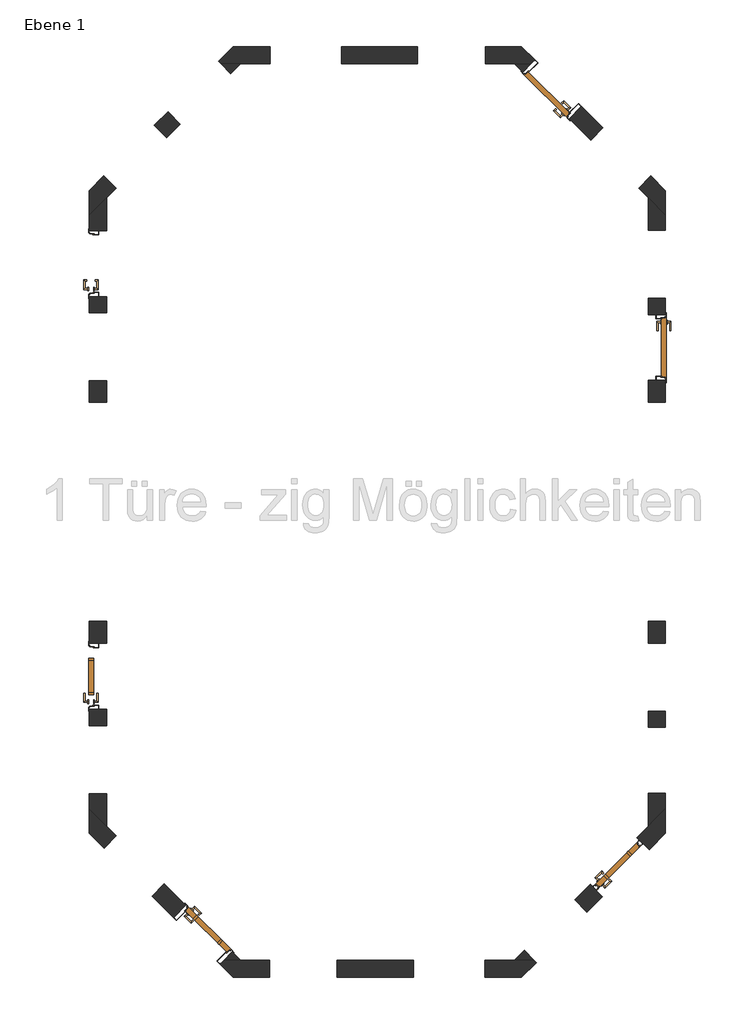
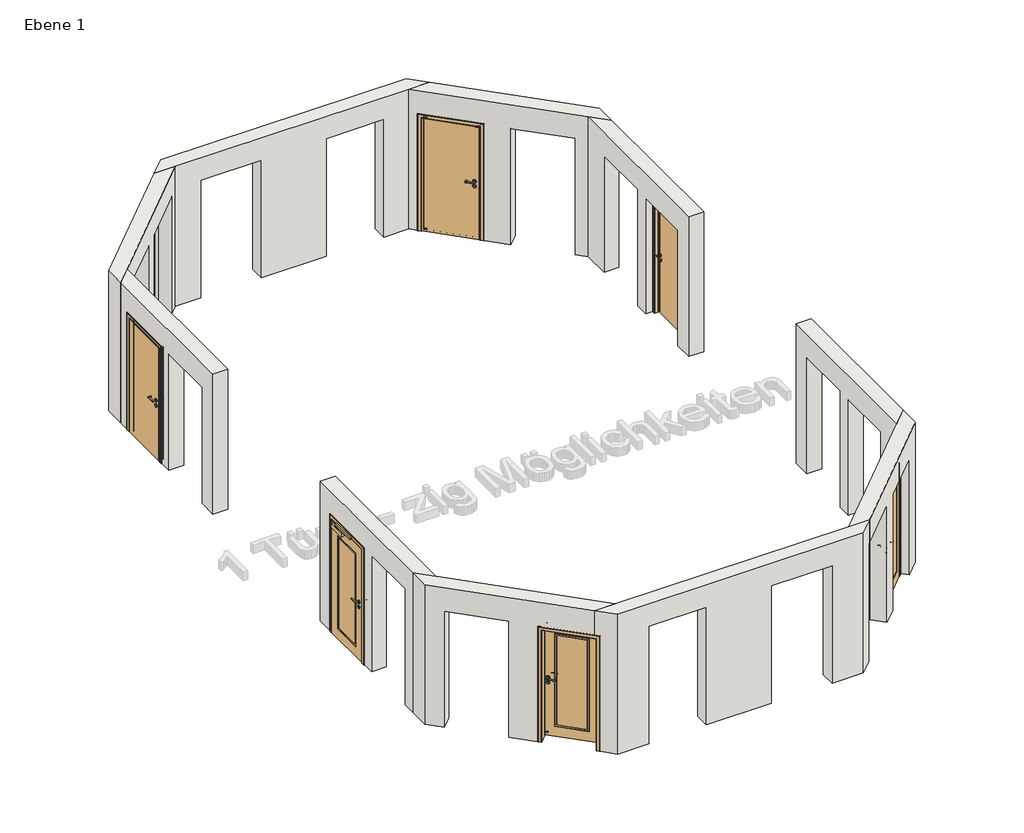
# One storey, part 1 of 2: 10 walls, 6 doors.
"""IFC4 building model written with IfcOpenShell, lengths in millimetres."""

from ifc_helpers import new_model, si_unit, origin, place, context, project, spatial, faceted_brep, transform, mapped, element, save
from components import door_c648f8eb, door_8842c076, door_bbc19964, door_5233f0bc, door_1babe00d, door_01702f04, door_741bb2bb, door_bfabdab3, door_c84f8a6b, door_6e8d6682, door_f72b39be, door_818478f5, door_acefcb3a, door_935f460a

model = new_model("IFC4")

# Units and contexts
model_context = context("Model", 3, world=origin())
ifc_project = project(units=[si_unit("LENGTHUNIT", "METRE", prefix="MILLI")], contexts=[model_context])

# Site, building, storey
site = spatial("IfcSite", under=ifc_project)
building = spatial("IfcBuilding", under=site)
storey = spatial("IfcBuildingStorey", under=building, Name="Ebene 1", Elevation=0.0)

# Doors
placement = place(None, origin())
door_shape = door_c648f8eb(model_context)
door_2_shape = door_8842c076(model_context)
door_3_shape = door_bbc19964(model_context)
element("IfcDoor", 1, ObjectType="Peneder_HIGHLINEflat_1-flügelig_V2019 : Zargentyp - 01 - Eck 60 DN", at=placement, inside=storey, context=model_context, shape_type="MappedRepresentation", body=[
    mapped(door_shape, transform((3666.3035436, 457.8727756, 0.0), x_axis=(0.0, -1.0, 0.0), y_axis=(1.0, 0.0, 0.0), z_axis=(0.0, 0.0, 1.0))),
    mapped(door_2_shape, transform((3666.3035436, 457.8727756, 0.0), x_axis=(0.0, -1.0, 0.0), y_axis=(1.0, 0.0, 0.0), z_axis=(0.0, 0.0, 1.0))),
    mapped(door_3_shape, transform((3666.3035436, 457.8727756, 0.0), x_axis=(0.0, -1.0, 0.0), y_axis=(1.0, 0.0, 0.0), z_axis=(0.0, 0.0, 1.0))),
])
door_4_shape = door_5233f0bc(model_context)
door_5_shape = door_1babe00d(model_context)
door_6_shape = door_01702f04(model_context)
element("IfcDoor", 2, ObjectType="Peneder_HIGHLINEflat_1-flügelig_V2019 : Zargentyp - 05 - U DN", at=placement, inside=storey, context=model_context, shape_type="MappedRepresentation", body=[
    mapped(door_4_shape, transform((2156.5558676, 4176.962445, 0.0), x_axis=(-0.7071067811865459, 0.7071067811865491, 0.0), y_axis=(-0.7071067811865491, -0.7071067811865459, 0.0), z_axis=(0.0, 0.0, 1.0))),
    mapped(door_5_shape, transform((2156.5558676, 4176.962445, 0.0), x_axis=(-0.7071067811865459, 0.7071067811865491, 0.0), y_axis=(-0.7071067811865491, -0.7071067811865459, 0.0), z_axis=(0.0, 0.0, 1.0))),
    mapped(door_6_shape, transform((2156.5558676, 4176.962445, 0.0), x_axis=(-0.7071067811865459, 0.7071067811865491, 0.0), y_axis=(-0.7071067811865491, -0.7071067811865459, 0.0), z_axis=(0.0, 0.0, 1.0))),
])
door_7_shape = door_741bb2bb(model_context)
door_8_shape = door_bfabdab3(model_context)
door_9_shape = door_c84f8a6b(model_context)
element("IfcDoor", 3, ObjectType="Peneder_HIGHLINEflat_1-flügelig_V2019 : Zargentyp - 01 - Eck 60 DN", at=placement, inside=storey, context=model_context, shape_type="MappedRepresentation", body=[
    mapped(door_7_shape, transform((-4385.4731517, 1667.2147691, 0.0), x_axis=(0.0, 1.0, 0.0), y_axis=(-1.0, 0.0, 0.0), z_axis=(0.0, 0.0, 1.0))),
    mapped(door_8_shape, transform((-4385.4731517, 1667.2147691, 0.0), x_axis=(0.0, 1.0, 0.0), y_axis=(-1.0, 0.0, 0.0), z_axis=(0.0, 0.0, 1.0))),
    mapped(door_9_shape, transform((-4385.4731517, 1667.2147691, 0.0), x_axis=(0.0, 1.0, 0.0), y_axis=(-1.0, 0.0, 0.0), z_axis=(0.0, 0.0, 1.0))),
])
door_10_shape = door_6e8d6682(model_context)
element("IfcDoor", 4, ObjectType="Peneder_HIGHLINEflat zero_1-flügelig_V2019 : Zargentyp - 01 - Eck 60 DN", at=placement, inside=storey, context=model_context, shape_type="MappedRepresentation", body=[
    mapped(door_shape, transform((-4385.4731517, -4276.7270525, 0.0), x_axis=(0.0, 1.0, 0.0), y_axis=(-1.0, 0.0, 0.0), z_axis=(0.0, 0.0, 1.0))),
    mapped(door_2_shape, transform((-4385.4731517, -4276.7270525, 0.0), x_axis=(0.0, 1.0, 0.0), y_axis=(-1.0, 0.0, 0.0), z_axis=(0.0, 0.0, 1.0))),
    mapped(door_10_shape, transform((-4385.4731517, -4276.7270525, 0.0), x_axis=(0.0, 1.0, 0.0), y_axis=(-1.0, 0.0, 0.0), z_axis=(0.0, 0.0, 1.0))),
])
door_11_shape = door_f72b39be(model_context)
element("IfcDoor", 5, ObjectType="Peneder_HIGHLINEflat zero_1-flügelig_V2019 : Zargentyp - 05 - U DN", at=placement, inside=storey, context=model_context, shape_type="MappedRepresentation", body=[
    mapped(door_4_shape, transform((-2875.7254757, -7995.8167219, 0.0), x_axis=(0.7071067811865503, -0.7071067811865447, 0.0), y_axis=(0.7071067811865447, 0.7071067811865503, 0.0), z_axis=(0.0, 0.0, 1.0))),
    mapped(door_5_shape, transform((-2875.7254757, -7995.8167219, 0.0), x_axis=(0.7071067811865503, -0.7071067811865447, 0.0), y_axis=(0.7071067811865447, 0.7071067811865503, 0.0), z_axis=(0.0, 0.0, 1.0))),
    mapped(door_11_shape, transform((-2875.7254757, -7995.8167219, 0.0), x_axis=(0.7071067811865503, -0.7071067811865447, 0.0), y_axis=(0.7071067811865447, 0.7071067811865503, 0.0), z_axis=(0.0, 0.0, 1.0))),
])
door_12_shape = door_818478f5(model_context)
door_13_shape = door_acefcb3a(model_context)
door_14_shape = door_935f460a(model_context)
element("IfcDoor", 6, ObjectType="Peneder_HIGHLINEflat zero_1-flügelig_V2019 : Zargentyp - 07 - Stumpf FP V", at=placement, inside=storey, context=model_context, shape_type="MappedRepresentation", body=[
    mapped(door_12_shape, transform((3129.5716567, -7022.8009328, 0.0), x_axis=(0.7071067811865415, 0.7071067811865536, 0.0), y_axis=(-0.7071067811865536, 0.7071067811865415, 0.0), z_axis=(0.0, 0.0, 1.0))),
    mapped(door_13_shape, transform((3129.5716567, -7022.8009328, 0.0), x_axis=(0.7071067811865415, 0.7071067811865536, 0.0), y_axis=(-0.7071067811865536, 0.7071067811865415, 0.0), z_axis=(0.0, 0.0, 1.0))),
    mapped(door_14_shape, transform((3129.5716567, -7022.8009328, 0.0), x_axis=(0.7071067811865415, 0.7071067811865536, 0.0), y_axis=(-0.7071067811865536, 0.7071067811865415, 0.0), z_axis=(0.0, 0.0, 1.0))),
])

# Walls
element("IfcWall", 7, ObjectType="Wand 1", at=placement, inside=storey, context=model_context, shape_type="Brep", body=[
    faceted_brep([(1968.0802389, 4542.2147691, 2500.0), (1614.5268483, 4542.2147691, 2500.0), (-2333.6964564, 4542.2147691, 2500.0), (-2687.249847, 4542.2147691, 2500.0), (-2687.249847, 4542.2147691, 2101.0), (-2614.8377507, 4542.2147691, 2101.0), (-2614.8377507, 4542.2147691, 0.0), (-2333.6964564, 4542.2147691, 0.0), (-1905.0730184, 4542.2147691, 0.0), (-1905.0730184, 4542.2147691, 2101.0), (-877.0730184, 4542.2147691, 2101.0), (-877.0730184, 4542.2147691, 0.0), (219.9269816, 4542.2147691, 0.0), (219.9269816, 4542.2147691, 2105.0), (1197.9269816, 4542.2147691, 2105.0), (1197.9269816, 4542.2147691, 0.0), (1614.5268483, 4542.2147691, 0.0), (1851.4709631, 4542.2147691, 0.0), (1851.4709631, 4542.2147691, 2061.0), (1968.0802389, 4542.2147691, 2061.0), (-2437.249847, 4792.2147691, 2500.0), (1718.0802389, 4792.2147691, 2500.0), (1718.0802389, 4792.2147691, 0.0), (1197.9269816, 4792.2147691, 0.0), (1197.9269816, 4792.2147691, 2105.0), (219.9269816, 4792.2147691, 2105.0), (219.9269816, 4792.2147691, 0.0), (-877.0730184, 4792.2147691, 0.0), (-877.0730184, 4792.2147691, 2101.0), (-1905.0730184, 4792.2147691, 2101.0), (-1905.0730184, 4792.2147691, 0.0), (-2437.249847, 4792.2147691, 0.0), (1909.775601, 4600.519407, 0.0), (-2651.0437989, 4578.4208172, 0.0), (1909.775601, 4600.519407, 2061.0), (-2651.0437989, 4578.4208172, 2101.0)], [[[0, 1, 2, 3, 4, 5, 6, 7, 8, 9, 10, 11, 12, 13, 14, 15, 16, 17, 18, 19]], [[20, 21, 22, 23, 24, 25, 26, 27, 28, 29, 30, 31]], [[22, 32, 17, 16, 15, 23]], [[31, 30, 8, 7, 6, 33]], [[11, 27, 26, 12]], [[3, 2, 1, 0, 21, 20]], [[22, 21, 0, 19, 34, 32]], [[3, 20, 31, 33, 35, 4]], [[34, 18, 17, 32]], [[18, 34, 19]], [[29, 9, 8, 30]], [[9, 29, 28, 10]], [[10, 28, 27, 11]], [[14, 24, 23, 15]], [[24, 14, 13, 25]], [[25, 13, 12, 26]], [[35, 5, 4]], [[5, 35, 33, 6]]]),
])
element("IfcWall", 8, ObjectType="Wand 1", at=placement, inside=storey, context=model_context, shape_type="Brep", body=[
    faceted_brep([(3791.3035436, 2365.4380738, 2500.0), (3541.3035436, 2615.4380738, 2500.0), (1614.5268483, 4542.2147691, 2500.0), (1614.5268483, 4542.2147691, 0.0), (1732.9989057, 4423.7427117, 0.0), (1732.9989057, 4423.7427117, 2061.0), (2403.3361343, 3753.4054831, 2061.0), (2403.3361343, 3753.4054831, 0.0), (2712.3417976, 3444.3998197, 0.0), (2712.3417976, 3444.3998197, 2076.0), (3403.8922296, 2752.8493877, 2076.0), (3403.8922296, 2752.8493877, 0.0), (3541.3035436, 2615.4380738, 0.0), (3791.3035436, 2365.4380738, 0.0), (1968.0802389, 4542.2147691, 2500.0), (3791.3035436, 2718.9914644, 2500.0), (3791.3035436, 2718.9914644, 0.0), (3580.6689249, 2929.626083, 0.0), (3580.6689249, 2929.626083, 2076.0), (2889.1184929, 3621.176515, 2076.0), (2889.1184929, 3621.176515, 0.0), (2580.1128296, 3930.1821784, 0.0), (2580.1128296, 3930.1821784, 2061.0), (1968.0802389, 4542.2147691, 2061.0), (1851.4709631, 4542.2147691, 0.0), (1851.4709631, 4542.2147691, 2061.0)], [[[0, 1, 2, 3, 4, 5, 6, 7, 8, 9, 10, 11, 12, 13]], [[14, 15, 16, 17, 18, 19, 20, 21, 22, 23]], [[16, 13, 12, 11, 17]], [[20, 8, 7, 21]], [[4, 3, 24]], [[2, 1, 0, 15, 14]], [[3, 2, 14, 23, 25, 24]], [[0, 13, 16, 15]], [[10, 18, 17, 11]], [[18, 10, 9, 19]], [[19, 9, 8, 20]], [[25, 5, 4, 24]], [[5, 25, 23, 22, 6]], [[6, 22, 21, 7]]]),
])
element("IfcWall", 9, ObjectType="Wand 1", at=placement, inside=storey, context=model_context, shape_type="Brep", body=[
    faceted_brep([(3541.3035436, -332.7852309, 0.0), (3541.3035436, -332.7852309, 2500.0), (3541.3035436, 2615.4380738, 2500.0), (3541.3035436, 2615.4380738, 0.0), (3541.3035436, 2146.8727756, 0.0), (3541.3035436, 2146.8727756, 2076.0), (3541.3035436, 1168.8727756, 2076.0), (3541.3035436, 1168.8727756, 0.0), (3541.3035436, 931.8727756, 0.0), (3541.3035436, 931.8727756, 2061.0), (3541.3035436, -16.1272244, 2061.0), (3541.3035436, -16.1272244, 0.0), (3791.3035436, -332.7852309, 2500.0), (3791.3035436, -332.7852309, 0.0), (3791.3035436, -16.1272244, 0.0), (3791.3035436, -16.1272244, 2061.0), (3791.3035436, 931.8727756, 2061.0), (3791.3035436, 931.8727756, 0.0), (3791.3035436, 1168.8727756, 0.0), (3791.3035436, 1168.8727756, 2076.0), (3791.3035436, 2146.8727756, 2076.0), (3791.3035436, 2146.8727756, 0.0), (3791.3035436, 2365.4380738, 0.0), (3791.3035436, 2365.4380738, 2500.0)], [[[0, 1, 2, 3, 4, 5, 6, 7, 8, 9, 10, 11]], [[12, 13, 14, 15, 16, 17, 18, 19, 20, 21, 22, 23]], [[13, 0, 11, 14]], [[3, 22, 21, 4]], [[17, 8, 7, 18]], [[1, 0, 13, 12]], [[2, 1, 12, 23]], [[3, 2, 23, 22]], [[10, 15, 14, 11]], [[15, 10, 9, 16]], [[16, 9, 8, 17]], [[20, 5, 4, 21]], [[5, 20, 19, 6]], [[6, 19, 18, 7]]]),
])
element("IfcWall", 10, ObjectType="Wand 1", at=placement, inside=storey, context=model_context, shape_type="Brep", body=[
    faceted_brep([(-4510.4731517, 2718.9914644, 2500.0), (-2687.249847, 4542.2147691, 2500.0), (-2687.249847, 4542.2147691, 2101.0), (-3377.9495699, 3851.5150462, 2101.0), (-3377.9495699, 3851.5150462, 0.0), (-3573.6767269, 3655.7878891, 0.0), (-3573.6767269, 3655.7878891, 2101.0), (-4300.582498, 2928.8821181, 2101.0), (-4300.582498, 2928.8821181, 0.0), (-4510.4731517, 2718.9914644, 0.0), (-2333.6964564, 4542.2147691, 2500.0), (-4260.4731517, 2615.4380738, 2500.0), (-4510.4731517, 2365.4380738, 2500.0), (-4510.4731517, 2365.4380738, 0.0), (-4260.4731517, 2615.4380738, 0.0), (-4123.8058027, 2752.1054228, 0.0), (-4123.8058027, 2752.1054228, 2101.0), (-3396.9000316, 3479.0111938, 2101.0), (-3396.9000316, 3479.0111938, 0.0), (-3201.1728746, 3674.7383509, 0.0), (-3201.1728746, 3674.7383509, 2101.0), (-2474.2671036, 4401.6441219, 2101.0), (-2474.2671036, 4401.6441219, 0.0), (-2333.6964564, 4542.2147691, 0.0), (-2614.8377507, 4542.2147691, 0.0), (-2614.8377507, 4542.2147691, 2101.0)], [[[0, 1, 2, 3, 4, 5, 6, 7, 8, 9]], [[10, 11, 12, 13, 14, 15, 16, 17, 18, 19, 20, 21, 22, 23]], [[13, 9, 8, 15, 14]], [[23, 22, 24]], [[4, 19, 18, 5]], [[1, 0, 12, 11, 10]], [[0, 9, 13, 12]], [[1, 10, 23, 24, 25, 2]], [[3, 20, 19, 4]], [[20, 3, 2, 25, 21]], [[21, 25, 24, 22]], [[7, 16, 15, 8]], [[16, 7, 6, 17]], [[17, 6, 5, 18]]]),
])
element("IfcWall", 11, ObjectType="Wand 1", at=placement, inside=storey, context=model_context, shape_type="Brep", body=[
    faceted_brep([(-4510.4731517, -332.7852309, 0.0), (-4510.4731517, -332.7852309, 2500.0), (-4510.4731517, 2365.4380738, 2500.0), (-4510.4731517, 2365.4380738, 0.0), (-4510.4731517, 2141.2147691, 0.0), (-4510.4731517, 2141.2147691, 2061.0), (-4510.4731517, 1193.2147691, 2061.0), (-4510.4731517, 1193.2147691, 0.0), (-4510.4731517, 956.2147691, 0.0), (-4510.4731517, 956.2147691, 2076.0), (-4510.4731517, -21.7852309, 2076.0), (-4510.4731517, -21.7852309, 0.0), (-4260.4731517, -332.7852309, 2500.0), (-4260.4731517, -332.7852309, 0.0), (-4260.4731517, -21.7852309, 0.0), (-4260.4731517, -21.7852309, 2076.0), (-4260.4731517, 956.2147691, 2076.0), (-4260.4731517, 956.2147691, 0.0), (-4260.4731517, 1193.2147691, 0.0), (-4260.4731517, 1193.2147691, 2061.0), (-4260.4731517, 2141.2147691, 2061.0), (-4260.4731517, 2141.2147691, 0.0), (-4260.4731517, 2615.4380738, 0.0), (-4260.4731517, 2615.4380738, 2500.0)], [[[0, 1, 2, 3, 4, 5, 6, 7, 8, 9, 10, 11]], [[12, 13, 14, 15, 16, 17, 18, 19, 20, 21, 22, 23]], [[13, 0, 11, 14]], [[3, 22, 21, 4]], [[17, 8, 7, 18]], [[1, 0, 13, 12]], [[2, 1, 12, 23]], [[3, 2, 23, 22]], [[10, 15, 14, 11]], [[15, 10, 9, 16]], [[16, 9, 8, 17]], [[20, 5, 4, 21]], [[5, 20, 19, 6]], [[6, 19, 18, 7]]]),
])
element("IfcWall", 12, ObjectType="Wand 1", at=placement, inside=storey, context=model_context, shape_type="Brep", body=[
    faceted_brep([(-2687.249847, -8361.069046, 2500.0), (-2333.6964564, -8361.069046, 2500.0), (1614.5268483, -8361.069046, 2500.0), (1968.0802389, -8361.069046, 2500.0), (1968.0802389, -8361.069046, 2101.0), (1895.6681426, -8361.069046, 2101.0), (1895.6681426, -8361.069046, 0.0), (1614.5268483, -8361.069046, 0.0), (1185.9034103, -8361.069046, 0.0), (1185.9034103, -8361.069046, 2101.0), (157.9034103, -8361.069046, 2101.0), (157.9034103, -8361.069046, 0.0), (-939.0965897, -8361.069046, 0.0), (-939.0965897, -8361.069046, 2105.0), (-1917.0965897, -8361.069046, 2105.0), (-1917.0965897, -8361.069046, 0.0), (-2333.6964564, -8361.069046, 0.0), (-2570.6405712, -8361.069046, 0.0), (-2570.6405712, -8361.069046, 2061.0), (-2687.249847, -8361.069046, 2061.0), (1718.0802389, -8611.069046, 2500.0), (-2437.249847, -8611.069046, 2500.0), (-2437.249847, -8611.069046, 0.0), (-1917.0965897, -8611.069046, 0.0), (-1917.0965897, -8611.069046, 2105.0), (-939.0965897, -8611.069046, 2105.0), (-939.0965897, -8611.069046, 0.0), (157.9034103, -8611.069046, 0.0), (157.9034103, -8611.069046, 2101.0), (1185.9034103, -8611.069046, 2101.0), (1185.9034103, -8611.069046, 0.0), (1718.0802389, -8611.069046, 0.0), (-2628.9452091, -8419.3736839, 0.0), (1931.8741907, -8397.2750941, 0.0), (-2628.9452091, -8419.3736839, 2061.0), (1931.8741907, -8397.2750941, 2101.0)], [[[0, 1, 2, 3, 4, 5, 6, 7, 8, 9, 10, 11, 12, 13, 14, 15, 16, 17, 18, 19]], [[20, 21, 22, 23, 24, 25, 26, 27, 28, 29, 30, 31]], [[22, 32, 17, 16, 15, 23]], [[31, 30, 8, 7, 6, 33]], [[11, 27, 26, 12]], [[3, 2, 1, 0, 21, 20]], [[22, 21, 0, 19, 34, 32]], [[3, 20, 31, 33, 35, 4]], [[34, 18, 17, 32]], [[18, 34, 19]], [[29, 9, 8, 30]], [[9, 29, 28, 10]], [[10, 28, 27, 11]], [[14, 24, 23, 15]], [[24, 14, 13, 25]], [[25, 13, 12, 26]], [[35, 5, 4]], [[5, 35, 33, 6]]]),
])
element("IfcWall", 13, ObjectType="Wand 1", at=placement, inside=storey, context=model_context, shape_type="Brep", body=[
    faceted_brep([(-4510.4731517, -6184.2923507, 2500.0), (-4260.4731517, -6434.2923507, 2500.0), (-2333.6964564, -8361.069046, 2500.0), (-2333.6964564, -8361.069046, 0.0), (-2452.1685138, -8242.5969886, 0.0), (-2452.1685138, -8242.5969886, 2061.0), (-3122.5057424, -7572.25976, 2061.0), (-3122.5057424, -7572.25976, 0.0), (-3431.5114058, -7263.2540966, 0.0), (-3431.5114058, -7263.2540966, 2076.0), (-4123.0618378, -6571.7036646, 2076.0), (-4123.0618378, -6571.7036646, 0.0), (-4260.4731517, -6434.2923507, 0.0), (-4510.4731517, -6184.2923507, 0.0), (-2687.249847, -8361.069046, 2500.0), (-4510.4731517, -6537.8457413, 2500.0), (-4510.4731517, -6537.8457413, 0.0), (-4299.838533, -6748.4803599, 0.0), (-4299.838533, -6748.4803599, 2076.0), (-3608.288101, -7440.0307919, 2076.0), (-3608.288101, -7440.0307919, 0.0), (-3299.2824377, -7749.0364553, 0.0), (-3299.2824377, -7749.0364553, 2061.0), (-2687.249847, -8361.069046, 2061.0), (-2570.6405712, -8361.069046, 0.0), (-2570.6405712, -8361.069046, 2061.0)], [[[0, 1, 2, 3, 4, 5, 6, 7, 8, 9, 10, 11, 12, 13]], [[14, 15, 16, 17, 18, 19, 20, 21, 22, 23]], [[16, 13, 12, 11, 17]], [[20, 8, 7, 21]], [[4, 3, 24]], [[2, 1, 0, 15, 14]], [[3, 2, 14, 23, 25, 24]], [[0, 13, 16, 15]], [[10, 18, 17, 11]], [[18, 10, 9, 19]], [[19, 9, 8, 20]], [[25, 5, 4, 24]], [[5, 25, 23, 22, 6]], [[6, 22, 21, 7]]]),
])
element("IfcWall", 14, ObjectType="Wand 1", at=placement, inside=storey, context=model_context, shape_type="Brep", body=[
    faceted_brep([(-4260.4731517, -3486.069046, 0.0), (-4260.4731517, -3486.069046, 2500.0), (-4260.4731517, -6434.2923507, 2500.0), (-4260.4731517, -6434.2923507, 0.0), (-4260.4731517, -5965.7270525, 0.0), (-4260.4731517, -5965.7270525, 2076.0), (-4260.4731517, -4987.7270525, 2076.0), (-4260.4731517, -4987.7270525, 0.0), (-4260.4731517, -4750.7270525, 0.0), (-4260.4731517, -4750.7270525, 2061.0), (-4260.4731517, -3802.7270525, 2061.0), (-4260.4731517, -3802.7270525, 0.0), (-4510.4731517, -3486.069046, 2500.0), (-4510.4731517, -3486.069046, 0.0), (-4510.4731517, -3802.7270525, 0.0), (-4510.4731517, -3802.7270525, 2061.0), (-4510.4731517, -4750.7270525, 2061.0), (-4510.4731517, -4750.7270525, 0.0), (-4510.4731517, -4987.7270525, 0.0), (-4510.4731517, -4987.7270525, 2076.0), (-4510.4731517, -5965.7270525, 2076.0), (-4510.4731517, -5965.7270525, 0.0), (-4510.4731517, -6184.2923507, 0.0), (-4510.4731517, -6184.2923507, 2500.0)], [[[0, 1, 2, 3, 4, 5, 6, 7, 8, 9, 10, 11]], [[12, 13, 14, 15, 16, 17, 18, 19, 20, 21, 22, 23]], [[13, 0, 11, 14]], [[3, 22, 21, 4]], [[17, 8, 7, 18]], [[1, 0, 13, 12]], [[2, 1, 12, 23]], [[3, 2, 23, 22]], [[10, 15, 14, 11]], [[15, 10, 9, 16]], [[16, 9, 8, 17]], [[20, 5, 4, 21]], [[5, 20, 19, 6]], [[6, 19, 18, 7]]]),
])
element("IfcWall", 15, ObjectType="Wand 1", at=placement, inside=storey, context=model_context, shape_type="Brep", body=[
    faceted_brep([(3791.3035436, -6537.8457413, 2500.0), (1968.0802389, -8361.069046, 2500.0), (1968.0802389, -8361.069046, 2101.0), (2658.7799618, -7670.369323, 2101.0), (2658.7799618, -7670.369323, 0.0), (2881.3771765, -7447.7721083, 0.0), (2881.3771765, -7447.7721083, 2076.0), (3554.5428322, -6774.6064526, 2076.0), (3554.5428322, -6774.6064526, 0.0), (3791.3035436, -6537.8457413, 0.0), (1614.5268483, -8361.069046, 2500.0), (3541.3035436, -6434.2923507, 2500.0), (3791.3035436, -6184.2923507, 2500.0), (3791.3035436, -6184.2923507, 0.0), (3541.3035436, -6434.2923507, 0.0), (3377.7661369, -6597.8297573, 0.0), (3377.7661369, -6597.8297573, 2076.0), (2704.6004812, -7270.995413, 2076.0), (2704.6004812, -7270.995413, 0.0), (2482.0032665, -7493.5926277, 0.0), (2482.0032665, -7493.5926277, 2101.0), (1755.0974955, -8220.4983988, 2101.0), (1755.0974955, -8220.4983988, 0.0), (1614.5268483, -8361.069046, 0.0), (1895.6681426, -8361.069046, 0.0), (1895.6681426, -8361.069046, 2101.0)], [[[0, 1, 2, 3, 4, 5, 6, 7, 8, 9]], [[10, 11, 12, 13, 14, 15, 16, 17, 18, 19, 20, 21, 22, 23]], [[13, 9, 8, 15, 14]], [[23, 22, 24]], [[4, 19, 18, 5]], [[1, 0, 12, 11, 10]], [[0, 9, 13, 12]], [[1, 10, 23, 24, 25, 2]], [[3, 20, 19, 4]], [[20, 3, 2, 25, 21]], [[21, 25, 24, 22]], [[7, 16, 15, 8]], [[16, 7, 6, 17]], [[17, 6, 5, 18]]]),
])
element("IfcWall", 16, ObjectType="Wand 1", at=placement, inside=storey, context=model_context, shape_type="Brep", body=[
    faceted_brep([(3791.3035436, -3486.069046, 0.0), (3791.3035436, -3486.069046, 2500.0), (3791.3035436, -6184.2923507, 2500.0), (3791.3035436, -6184.2923507, 0.0), (3791.3035436, -5960.069046, 0.0), (3791.3035436, -5960.069046, 2061.0), (3791.3035436, -5012.069046, 2061.0), (3791.3035436, -5012.069046, 0.0), (3791.3035436, -4775.069046, 0.0), (3791.3035436, -4775.069046, 2076.0), (3791.3035436, -3797.069046, 2076.0), (3791.3035436, -3797.069046, 0.0), (3541.3035436, -3486.069046, 2500.0), (3541.3035436, -3486.069046, 0.0), (3541.3035436, -3797.069046, 0.0), (3541.3035436, -3797.069046, 2076.0), (3541.3035436, -4775.069046, 2076.0), (3541.3035436, -4775.069046, 0.0), (3541.3035436, -5012.069046, 0.0), (3541.3035436, -5012.069046, 2061.0), (3541.3035436, -5960.069046, 2061.0), (3541.3035436, -5960.069046, 0.0), (3541.3035436, -6434.2923507, 0.0), (3541.3035436, -6434.2923507, 2500.0)], [[[0, 1, 2, 3, 4, 5, 6, 7, 8, 9, 10, 11]], [[12, 13, 14, 15, 16, 17, 18, 19, 20, 21, 22, 23]], [[13, 0, 11, 14]], [[3, 22, 21, 4]], [[17, 8, 7, 18]], [[1, 0, 13, 12]], [[2, 1, 12, 23]], [[3, 2, 23, 22]], [[10, 15, 14, 11]], [[15, 10, 9, 16]], [[16, 9, 8, 17]], [[20, 5, 4, 21]], [[5, 20, 19, 6]], [[6, 19, 18, 7]]]),
])

save(model, "model.ifc")
